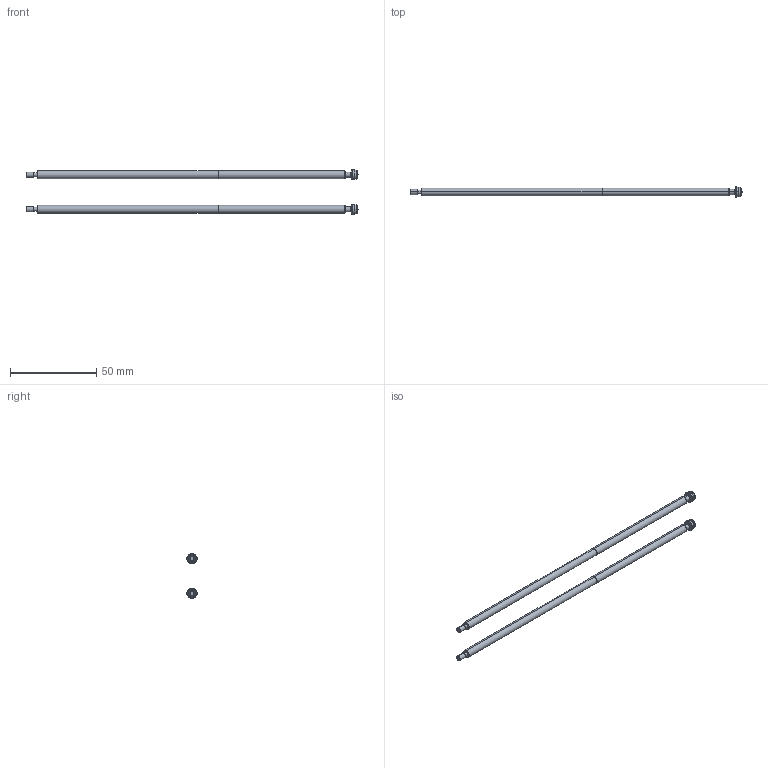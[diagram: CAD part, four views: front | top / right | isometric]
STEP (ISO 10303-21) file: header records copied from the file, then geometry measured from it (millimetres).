
FILE_DESCRIPTION( (''), '2;1');
FILE_NAME ('YS8Z-8.stp','2022-12-01T14:58:58',(''),(''),'spGate 12.6.6','','');
FILE_SCHEMA (('AUTOMOTIVE_DESIGN'));
Length unit declared in the file: millimetre
Products named in the file (4): Assembly; YS8Z-8-prt0; YS8Z-8-prt1; YS8Z-8-prt2
Assembly tree (6 placements, depth 2):
  Assembly
    YS8Z-8-prt0  x2
    YS8Z-8-prt1  x2
    YS8Z-8-prt2  x2
Bounding box: 192.4 x 6 x 26 mm (x, y, z)
Volume: 5779 mm3; surface area: 6186.2 mm2
Topology: 6 solids, 6 shells, 144 faces, 288 edges, 166 vertices
Faces by surface type: cylinder 60, bspline 52, plane 28, sphere 4
Entity records: 3272 total; most frequent: CARTESIAN_POINT 630, ORIENTED_EDGE 276, DIRECTION 274, COLOUR_RGB 213, PRESENTATION_STYLE_ASSIGNMENT 213, STYLED_ITEM 213, EDGE_CURVE 138, DRAUGHTING_PRE_DEFINED_CURVE_FONT 138
